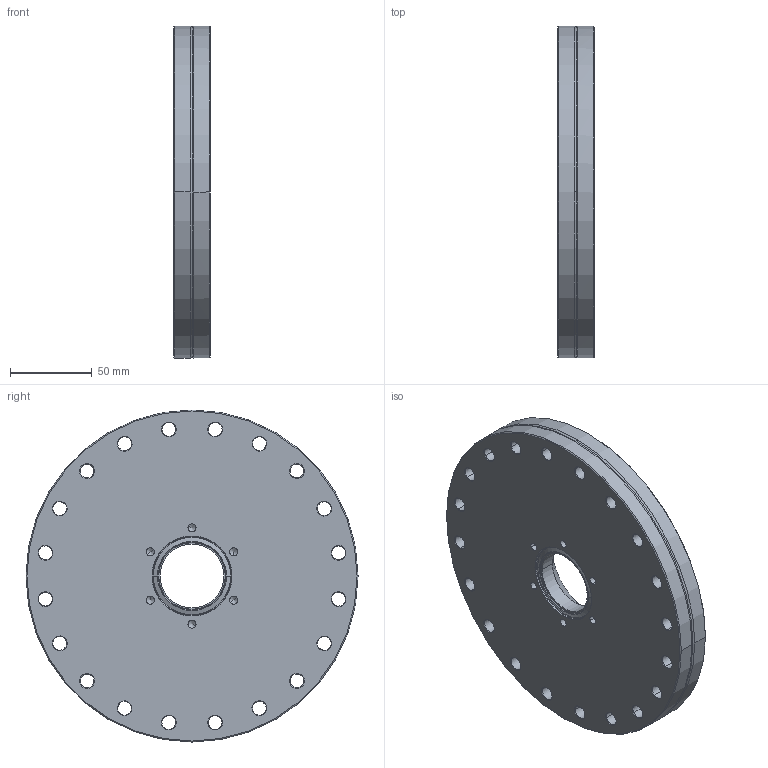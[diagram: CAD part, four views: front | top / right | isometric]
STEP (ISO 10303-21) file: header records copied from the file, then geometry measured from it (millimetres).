
FILE_DESCRIPTION((''),'2;1');
FILE_NAME('N:\Transfer\Berger Martin\Leybold\C15\83690.stp','2005-02-07T09:45:00',('VCRC_L'),(''),'Autodesk Inventor 9','Autodesk Inventor 9','');
FILE_SCHEMA(('AUTOMOTIVE_DESIGN { 1 0 10303 214 1 1 1 1 }'));
Length unit declared in the file: millimetre
Products named in the file (1): 83690
Bounding box: 22 x 202.5 x 202.5 mm (x, y, z)
Volume: 617499.7 mm3; surface area: 88875.8 mm2
Topology: 1 solids, 1 shells, 197 faces, 477 edges, 278 vertices
Faces by surface type: cone 104, bspline 72, torus 8, cylinder 8, plane 5
Entity records: 6972 total; most frequent: CARTESIAN_POINT 2417, DIRECTION 991, ORIENTED_EDGE 930, EDGE_CURVE 465, AXIS2_PLACEMENT_3D 408, CIRCLE 282, VERTEX_POINT 278, EDGE_LOOP 247
